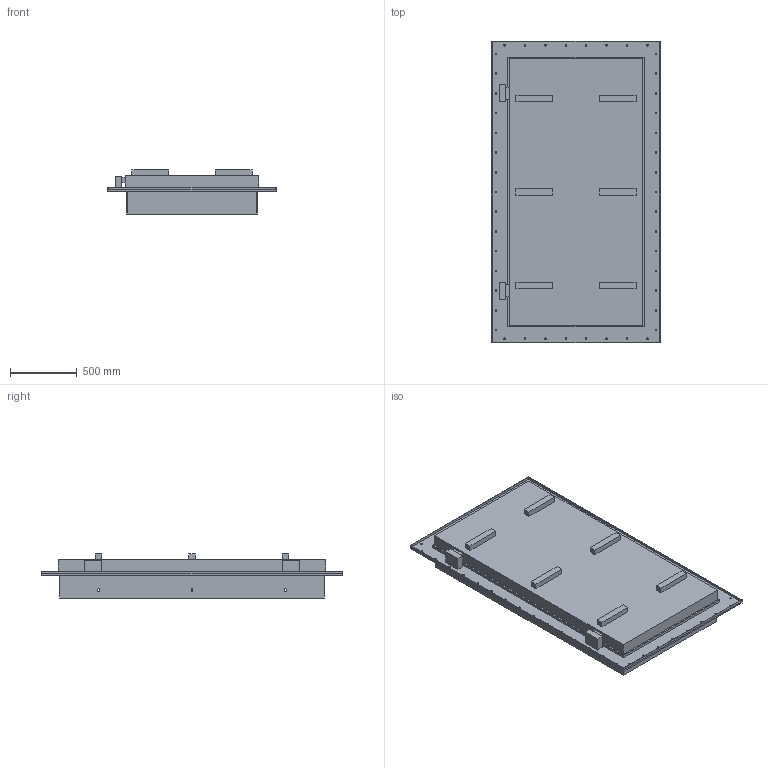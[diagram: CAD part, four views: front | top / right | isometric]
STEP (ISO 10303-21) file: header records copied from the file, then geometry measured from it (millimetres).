
FILE_DESCRIPTION((''),'2;1');
FILE_NAME('51621370','2021-02-02T06:40:03',('ka'),('HUBER SE'),'CREO PARAMETRIC BY PTC INC, 2019224','CREO PARAMETRIC BY PTC INC, 2019224','');
FILE_SCHEMA(('AUTOMOTIVE_DESIGN { 1 0 10303 214 1 1 1 1 }'));
Length unit declared in the file: millimetre
Products named in the file (1): 51621370
Bounding box: 1260 x 2260 x 330 mm (x, y, z)
Volume: 209575870.2 mm3; surface area: 9365360.5 mm2
Topology: 1 solids, 1 shells, 225 faces, 717 edges, 513 vertices
Faces by surface type: plane 121, cylinder 104
Entity records: 10311 total; most frequent: CARTESIAN_POINT 1601, DIRECTION 1486, ORIENTED_EDGE 1224, EDGE_CURVE 612, VECTOR 515, LINE 515, AXIS2_PLACEMENT_3D 484, VERTEX_POINT 408
